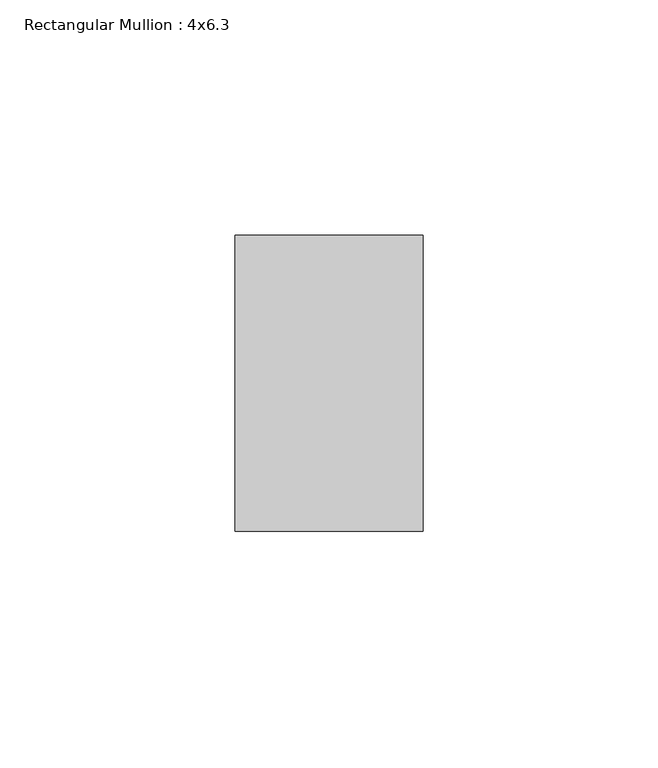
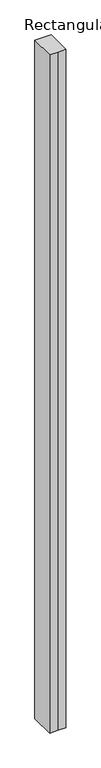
"""IFC4 building model written with IfcOpenShell, lengths in millimetres: member geometry, Rectangular Mullion : 4x6.3."""

from ifc_helpers import new_model, si_unit, frame, origin, place, context, project, spatial, polyline, outline, extrude, source, transform, mapped, element, save


def rectangular_mullion_4x6_3_e1a80a4f(model_context):
    return source(origin(), model_context, "Body", "SweptSolid", [
        extrude(outline(polyline([(-20.0, 20.0), (-20.0, 83.0), (20.0, 83.0), (20.0, 20.0), (0.0, 20.0), (-20.0, 20.0)])), frame((0.0, 0.0, -1781.0609123), z_axis=(0.0, 0.0, 1.0), x_axis=(1.0, 0.0, 0.0)), (0.0, 0.0, 1.0), 1781.0609123),
    ])


if __name__ == "__main__":
    model = new_model("IFC4")
    model_context = context("Model", 3, world=origin())
    ifc_project = project(units=[si_unit("LENGTHUNIT", "METRE", prefix="MILLI")], contexts=[model_context])
    site = spatial("IfcSite", under=ifc_project)
    building = spatial("IfcBuilding", under=site)
    placement = place(None, origin())
    rectangular_mullion_4x6_3_shape = rectangular_mullion_4x6_3_e1a80a4f(model_context)
    element("IfcMember", 1, ObjectType="Rectangular Mullion : 4x6.3", at=placement, inside=building, context=model_context, shape_type="MappedRepresentation", body=[
        mapped(rectangular_mullion_4x6_3_shape, transform((0.0, 0.0, 0.0), x_axis=(1.0, 0.0, 0.0), y_axis=(0.0, 1.0, 0.0), z_axis=(0.0, 0.0, 1.0))),
    ])
    save(model, "model.ifc")
